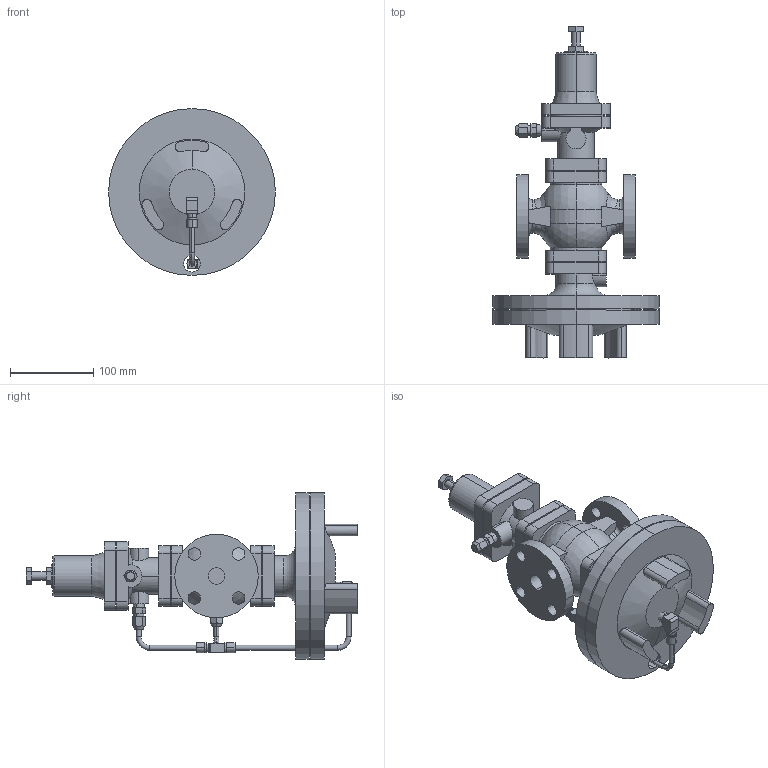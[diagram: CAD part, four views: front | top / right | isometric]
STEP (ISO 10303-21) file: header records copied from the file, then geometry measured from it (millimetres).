
FILE_DESCRIPTION (( 'STEP AP203' ), '1' );
FILE_NAME ('GPR-2000 JIS10K 20A.STEP', '2025-12-05T01:55:54', ( '' ), ( '' ), 'SwSTEP 2.0', 'SolidWorks 2024', '' );
FILE_SCHEMA (( 'CONFIG_CONTROL_DESIGN' ));
Length unit declared in the file: millimetre
Products named in the file (8): Pipe B 15-20A; Tee; GPR-2000 Body Assy EN 20A; Pipe C 15-20A; Joint; Elbow; GPR-2000 JIS10K 20A; Pipe A 15-25A
Assembly tree (9 placements, depth 2):
  GPR-2000 JIS10K 20A
    GPR-2000 Body Assy EN 20A
    Tee
    Joint  x3
    Pipe B 15-20A
    Pipe A 15-25A
    Elbow
    Pipe C 15-20A
Bounding box: 200 x 397.9 x 200 mm (x, y, z)
Volume: 2615468.8 mm3; surface area: 291339 mm2
Topology: 9 solids, 9 shells, 404 faces, 1016 edges, 676 vertices
Faces by surface type: plane 185, cylinder 168, cone 27, torus 16, sphere 4, bspline 4
Entity records: 13707 total; most frequent: CARTESIAN_POINT 4085, DIRECTION 1905, ORIENTED_EDGE 1764, EDGE_CURVE 882, AXIS2_PLACEMENT_3D 738, VERTEX_POINT 580, VECTOR 429, LINE 429
